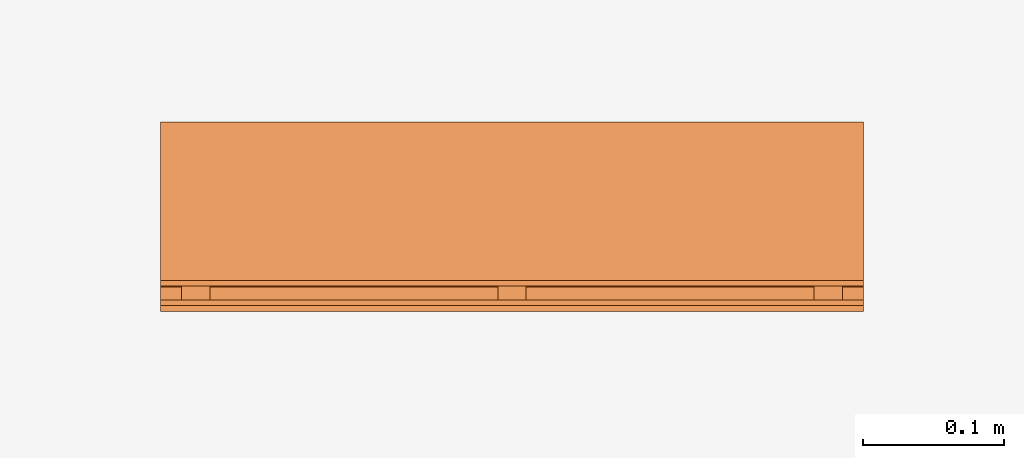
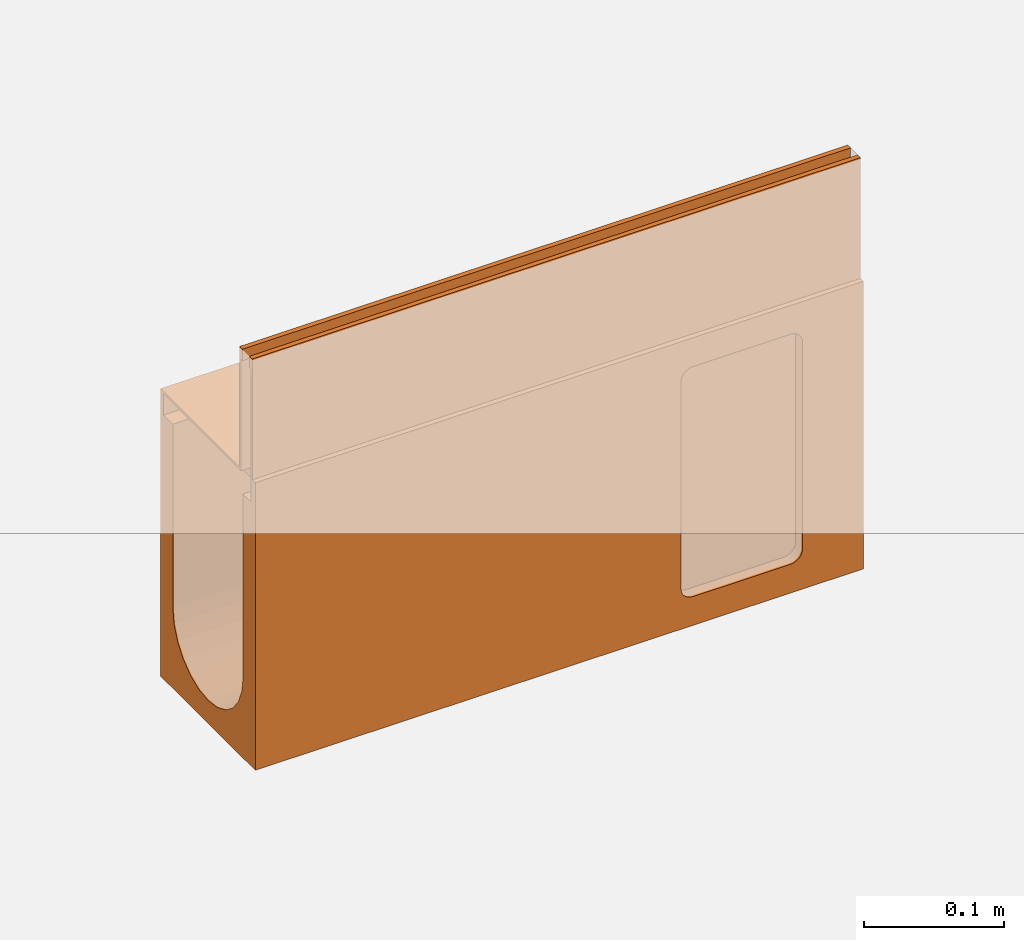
# One storey, part 2 of 2: 1 proxy.
"""IFC2X3 building model written with IfcOpenShell, lengths in millimetres."""

from ifc_helpers import new_model, entity, si_unit, converted_unit, direction, frame, origin, place, context, subcontext, project, spatial, faceted_brep, source, transform, mapped, material, material_list, element, save


model = new_model("IFC2X3")

# Units and contexts
model_context = context("Model", 3, precision=1e-06, world=origin(), true_north=direction((2.0, 6.12303176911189e-17, 1.0)))
context_of_model = context(None, 3, precision=1e-06, world=origin(), true_north=direction((2.0, 6.12303176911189e-17, 1.0)))
body_context = subcontext(model_context, "Body", "Model", "MODEL_VIEW")
ifc_project = project(units=[si_unit("LENGTHUNIT", "METRE", prefix="MILLI"), si_unit("AREAUNIT", "SQUARE_METRE", prefix="MILLI"), si_unit("VOLUMEUNIT", "CUBIC_METRE", prefix="MILLI"), converted_unit("PLANEANGLEUNIT", "DEGREE", entity("IfcRatioMeasure", 0.0174532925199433), si_unit("PLANEANGLEUNIT", "RADIAN"), dimensions=[0, 0, 0, 0, 0, 0, 0]), si_unit("TIMEUNIT", "SECOND")], contexts=[model_context, context_of_model])

# Site, building, storey
site_placement = place(None, origin())
site = spatial("IfcSite", under=ifc_project, at=site_placement, Name="Default", CompositionType="ELEMENT")
building_placement = place(site_placement, origin())
building = spatial("IfcBuilding", under=site, at=building_placement, CompositionType="ELEMENT")
storey_placement = place(building_placement, origin())
storey = spatial("IfcBuildingStorey", under=building, at=storey_placement, Name="Level 1", CompositionType="ELEMENT", Elevation=0.0)

# Proxy
ifc_material_1 = material(Name="Steel, Galvanized")
ifc_material_2 = material(Name="Vienite® Synthetic Resin Concrete")
ifc_material_list = material_list([ifc_material_1, ifc_material_2])
shared_shape = source(origin(), body_context, "Body", "Brep", [
    faceted_brep([(63.2499999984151, 240.0, -107.000975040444), (63.2499999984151, 242.0, -109.000975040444), (63.2499999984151, 258.0, -109.000975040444), (63.2499999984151, 260.0, -107.000975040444), (63.2499999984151, 242.0, -123.500975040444), (63.2499999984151, 240.0, -125.500975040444), (63.2499999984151, 258.0, -123.500975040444), (63.2499999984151, 260.0, -125.500975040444), (-61.2500000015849, 240.0, -125.500975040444), (-61.2500000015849, 242.0, -123.500975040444), (-61.2500000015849, 258.0, -123.500975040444), (-61.2500000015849, 260.0, -125.500975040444), (-61.2500000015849, 242.0, -109.000975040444), (-61.2500000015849, 240.0, -107.000975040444), (-61.2500000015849, 258.0, -109.000975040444), (-61.2500000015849, 260.0, -107.000975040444)], [[[0, 1, 2, 3]], [[4, 1, 0, 5]], [[3, 2, 6, 7]], [[6, 4, 5, 7]], [[8, 9, 10, 11]], [[12, 9, 8, 13]], [[11, 10, 14, 15]], [[14, 12, 13, 15]], [[5, 0, 13, 8]], [[7, 5, 8, 11]], [[3, 7, 11, 15]], [[0, 3, 15, 13]], [[1, 4, 9, 12]], [[2, 1, 12, 14]], [[6, 2, 14, 10]], [[4, 6, 10, 9]]]),
    faceted_brep([(63.2499999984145, 15.0, -107.000975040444), (63.2499999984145, 17.0, -109.000975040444), (63.2499999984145, 33.0, -109.000975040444), (63.2499999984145, 35.0, -107.000975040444), (63.2499999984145, 17.0, -123.500975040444), (63.2499999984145, 15.0, -125.500975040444), (63.2499999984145, 33.0, -123.500975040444), (63.2499999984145, 35.0, -125.500975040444), (-61.2500000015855, 15.0, -125.500975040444), (-61.2500000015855, 17.0, -123.500975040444), (-61.2500000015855, 33.0, -123.500975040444), (-61.2500000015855, 35.0, -125.500975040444), (-61.2500000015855, 17.0, -109.000975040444), (-61.2500000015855, 15.0, -107.000975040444), (-61.2500000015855, 33.0, -109.000975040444), (-61.2500000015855, 35.0, -107.000975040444)], [[[0, 1, 2, 3]], [[4, 1, 0, 5]], [[3, 2, 6, 7]], [[6, 4, 5, 7]], [[8, 9, 10, 11]], [[12, 9, 8, 13]], [[11, 10, 14, 15]], [[14, 12, 13, 15]], [[5, 0, 13, 8]], [[11, 7, 5, 8]], [[3, 7, 11, 15]], [[0, 3, 15, 13]], [[1, 4, 9, 12]], [[14, 2, 1, 12]], [[6, 2, 14, 10]], [[9, 4, 6, 10]]]),
    faceted_brep([(63.2499999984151, 465.0, -107.000975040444), (63.2499999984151, 467.0, -109.000975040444), (63.2499999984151, 483.0, -109.000975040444), (63.2499999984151, 485.0, -107.000975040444), (63.2499999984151, 467.0, -123.500975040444), (63.2499999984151, 465.0, -125.500975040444), (63.2499999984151, 483.0, -123.500975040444), (63.2499999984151, 485.0, -125.500975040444), (-61.2500000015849, 465.0, -125.500975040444), (-61.2500000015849, 467.0, -123.500975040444), (-61.2500000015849, 483.0, -123.500975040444), (-61.2500000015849, 485.0, -125.500975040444), (-61.2500000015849, 467.0, -109.000975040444), (-61.2500000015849, 465.0, -107.000975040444), (-61.2500000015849, 483.0, -109.000975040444), (-61.2500000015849, 485.0, -107.000975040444)], [[[0, 1, 2, 3]], [[4, 1, 0, 5]], [[3, 2, 6, 7]], [[6, 4, 5, 7]], [[8, 9, 10, 11]], [[12, 9, 8, 13]], [[11, 10, 14, 15]], [[14, 12, 13, 15]], [[5, 0, 13, 8]], [[7, 5, 8, 11]], [[3, 7, 11, 15]], [[0, 3, 15, 13]], [[1, 4, 9, 12]], [[2, 1, 12, 14]], [[6, 2, 14, 10]], [[4, 6, 10, 9]]]),
    faceted_brep([(-47.2500000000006, 0.0, -10.0), (-47.2500000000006, 0.0, -107.0), (-45.2500000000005, 0.0, -105.0), (-45.2500000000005, 0.0, 0.0), (-49.2500000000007, 0.0, 0.0), (-49.2500000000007, 0.0, -10.0), (63.2499999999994, 0.0, -107.0), (63.2499999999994, 0.0, -105.0), (-45.2500000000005, 500.0, -105.0), (63.2499999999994, 500.0, -105.0), (63.2499999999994, 500.0, -107.0), (-47.2500000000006, 500.0, -107.0), (-47.2500000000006, 500.0, -10.0), (-45.2500000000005, 500.0, 0.0), (-49.2500000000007, 500.0, -10.0), (-49.2500000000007, 500.0, 0.0)], [[[0, 1, 2, 3]], [[4, 5, 0, 3]], [[6, 7, 2, 1]], [[8, 9, 10, 11]], [[12, 13, 8, 11]], [[12, 14, 15, 13]], [[12, 0, 5, 14]], [[1, 0, 12, 11]], [[10, 6, 1, 11]], [[9, 7, 6, 10]], [[2, 7, 9, 8]], [[3, 2, 8, 13]], [[4, 3, 13, 15]], [[5, 4, 15, 14]]]),
    faceted_brep([(-59.2500000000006, 500.0, 0.0), (-59.2500000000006, 500.0, -10.0), (-61.2500000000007, 500.0, -10.0), (-63.2500000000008, 500.0, 0.0), (-63.2500000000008, 500.0, -125.499999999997), (-61.2500000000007, 500.0, -125.499999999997), (-61.2500000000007, 0.0, -10.0), (-63.2500000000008, 0.0, 0.0), (-63.2500000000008, 0.0, -125.499999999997), (-61.2500000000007, 0.0, -125.499999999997), (-59.2500000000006, 0.0, 0.0), (-59.2500000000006, 0.0, -10.0)], [[[0, 1, 2, 3]], [[4, 3, 2, 5]], [[6, 7, 8, 9]], [[10, 7, 6, 11]], [[5, 9, 8, 4]], [[6, 9, 5, 2]], [[1, 11, 6, 2]], [[10, 11, 1, 0]], [[7, 10, 0, 3]], [[4, 8, 7, 3]]]),
    faceted_brep([(63.2499999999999, 500.0, -125.500000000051), (63.2499999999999, 500.0, -105.0), (67.4999999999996, 500.0, -105.0), (67.5, 500.0, -355.0), (50.0, 500.0, -285.0), (50.0, 500.0, -125.500000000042), (-67.5000000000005, 500.0, -105.0), (-63.2500000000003, 500.0, -105.0), (-63.2500000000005, 500.0, -125.500000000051), (-67.5000000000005, 500.0, -355.0), (-50.0, 500.0, -125.500000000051), (-50.0, 500.0, -285.0), (48.2962913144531, 500.0, -297.940952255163), (35.3553390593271, 500.0, -320.355339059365), (43.3012701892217, 500.0, -310.0), (25.0, 500.0, -328.301270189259), (0.0, 500.0, -335.0), (12.9409522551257, 500.0, -333.296291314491), (-43.3012701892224, 500.0, -310.0), (-35.3553390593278, 500.0, -320.355339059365), (-48.2962913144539, 500.0, -297.940952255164), (-25.0, 500.0, -328.301270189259), (-12.9409522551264, 500.0, -333.296291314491), (67.5, 0.0, -355.0), (12.9409522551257, 0.0, -333.296291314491), (0.0, 0.0, -335.0), (25.0, 0.0, -328.301270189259), (35.3553390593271, 0.0, -320.355339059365), (43.3012701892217, 0.0, -310.0), (48.2962913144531, 0.0, -297.940952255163), (-12.9409522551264, 0.0, -333.296291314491), (-67.5000000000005, 0.0, -355.0), (-25.0, 0.0, -328.301270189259), (-35.3553390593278, 0.0, -320.355339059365), (-43.3012701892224, 0.0, -310.0), (-48.2962913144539, 0.0, -297.940952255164), (50.0, 0.0, -285.0), (63.2499999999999, 0.0, -125.500000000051), (50.0, 0.0, -125.500000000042), (67.4999999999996, 0.0, -105.0), (63.2499999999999, 0.0, -105.0), (-50.0, 0.0, -285.0), (-50.0, 0.0, -125.500000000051), (-63.2500000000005, 0.0, -125.500000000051), (-63.2500000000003, 0.0, -105.0), (-67.5000000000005, 0.0, -105.0), (-67.5000000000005, 51.3397459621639, -135.0), (-67.5000000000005, 50.3407417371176, -137.411809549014), (-67.5000000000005, 52.9289321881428, -132.928932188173), (-67.5000000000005, 50.0, -140.0), (-67.5000000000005, 50.0, -320.0), (-67.5000000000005, 60.0, -130.0), (-67.5000000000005, 57.4118095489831, -130.340741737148), (-67.5000000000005, 55.0, -131.339745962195), (-67.5000000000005, 140.0, -130.0), (-67.5000000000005, 50.3407417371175, -322.58819045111), (-67.5000000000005, 51.3397459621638, -325.0), (-67.5000000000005, 52.9289321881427, -327.07106781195), (-67.5000000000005, 55.0, -328.660254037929), (-67.5000000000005, 57.4118095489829, -329.659258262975), (-67.5000000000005, 60.0, -330.0), (-67.5000000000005, 140.0, -330.0), (-67.5000000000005, 142.588190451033, -130.340741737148), (-67.5000000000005, 147.071067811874, -132.928932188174), (-67.5000000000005, 145.0, -131.339745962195), (-67.5000000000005, 148.660254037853, -135.0), (-67.5000000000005, 149.659258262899, -137.411809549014), (-67.5000000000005, 150.0, -140.0), (-67.5000000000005, 145.0, -328.660254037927), (-67.5000000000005, 147.071067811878, -327.071067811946), (-67.5000000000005, 142.588190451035, -329.659258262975), (-67.5000000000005, 149.659258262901, -322.5881904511), (-67.5000000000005, 150.0, -320.0), (-67.5000000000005, 148.660254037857, -325.0), (-14.2350474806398, 46.8740795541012, -355.0), (0.0, 45.0, -355.0), (-27.5000000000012, 52.3686027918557, -355.0), (-53.1259204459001, 85.764952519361, -355.0), (-47.6313972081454, 72.4999999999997, -355.0), (-38.8908729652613, 61.1091270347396, -355.0), (-55.0, 100.0, -355.0), (14.2350474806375, 46.8740795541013, -355.0), (27.4999999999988, 52.368602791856, -355.0), (38.8908729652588, 61.1091270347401, -355.0), (47.6313972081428, 72.5000000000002, -355.0), (53.1259204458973, 85.7649525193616, -355.0), (55.0, 100.0, -355.0), (-53.1259204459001, 114.235047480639, -355.0), (-47.6313972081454, 127.5, -355.0), (-38.8908729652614, 138.89087296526, -355.0), (-27.5000000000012, 147.631397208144, -355.0), (-14.2350474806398, 153.125920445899, -355.0), (0.0, 155.0, -355.0), (47.6313972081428, 127.5, -355.0), (38.8908729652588, 138.89087296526, -355.0), (53.1259204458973, 114.235047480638, -355.0), (14.2350474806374, 153.125920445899, -355.0), (27.4999999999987, 147.631397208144, -355.0), (67.4999999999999, 51.3397459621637, -325.0), (67.4999999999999, 50.3407417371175, -322.588190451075), (67.4999999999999, 52.9289321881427, -327.071067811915), (67.4999999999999, 50.0, -320.0), (67.4999999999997, 50.0, -140.0), (67.5, 60.0, -330.0), (67.4999999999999, 57.4118095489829, -329.659258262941), (67.4999999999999, 55.0, -328.660254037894), (67.5, 140.0, -330.0), (67.4999999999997, 50.3407417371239, -137.411809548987), (67.4999999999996, 51.3397459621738, -135.0), (67.4999999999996, 52.9289321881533, -132.92893218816), (67.4999999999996, 55.0, -131.339745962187), (67.4999999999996, 57.4118095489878, -130.340741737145), (67.4999999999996, 60.0, -130.0), (67.4999999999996, 140.0, -130.0), (67.4999999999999, 142.588190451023, -329.65925826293), (67.4999999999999, 147.071067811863, -327.071067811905), (67.4999999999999, 145.0, -328.660254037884), (67.4999999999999, 148.660254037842, -325.0), (67.4999999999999, 149.659258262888, -322.588190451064), (67.4999999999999, 150.0, -320.0), (67.4999999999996, 145.0, -131.339745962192), (67.4999999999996, 147.071067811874, -132.928932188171), (67.4999999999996, 142.588190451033, -130.340741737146), (67.4999999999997, 149.659258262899, -137.411809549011), (67.4999999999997, 150.0, -140.0), (67.4999999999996, 148.660254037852, -135.0), (57.4999999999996, 140.0, -330.0), (57.4999999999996, 149.659258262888, -322.588190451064), (57.4999999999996, 150.0, -320.0), (57.4999999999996, 50.0, -320.0), (57.4999999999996, 147.071067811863, -327.071067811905), (57.4999999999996, 148.660254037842, -325.0), (57.4999999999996, 142.588190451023, -329.65925826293), (57.4999999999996, 145.0, -328.660254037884), (57.4999999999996, 150.0, -140.0), (57.4999999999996, 50.0, -140.0), (57.4999999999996, 148.660254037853, -135.0), (57.4999999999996, 147.071067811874, -132.928932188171), (57.4999999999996, 149.659258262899, -137.411809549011), (57.4999999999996, 140.0, -130.0), (57.4999999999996, 145.0, -131.339745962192), (57.4999999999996, 142.588190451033, -130.340741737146), (57.4999999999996, 60.0, -130.0), (57.4999999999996, 55.0, -328.660254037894), (57.4999999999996, 57.4118095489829, -329.659258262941), (57.4999999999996, 60.0, -330.0), (57.4999999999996, 52.9289321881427, -327.071067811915), (57.4999999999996, 50.3407417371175, -322.588190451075), (57.4999999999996, 51.3397459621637, -325.0), (57.4999999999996, 57.411809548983, -130.340741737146), (57.4999999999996, 55.0, -131.339745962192), (57.4999999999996, 51.3397459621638, -135.0), (57.4999999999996, 50.3407417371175, -137.411809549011), (57.4999999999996, 52.9289321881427, -132.928932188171), (-57.5000000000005, 57.4118095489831, -130.340741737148), (-57.5000000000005, 60.0, -130.0), (-57.5000000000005, 52.9289321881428, -132.928932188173), (-57.5000000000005, 55.0, -131.339745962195), (-57.5000000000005, 50.0, -140.0), (-57.5000000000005, 50.3407417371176, -137.411809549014), (-57.5000000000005, 51.3397459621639, -135.0), (-57.5000000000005, 150.0, -140.0), (-57.5000000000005, 140.0, -130.0), (-57.5000000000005, 142.588190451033, -130.340741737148), (-57.5000000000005, 145.0, -131.339745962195), (-57.5000000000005, 149.659258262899, -137.411809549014), (-57.5000000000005, 147.071067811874, -132.928932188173), (-57.5000000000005, 148.660254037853, -135.0), (-57.5000000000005, 150.0, -320.0), (-57.5000000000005, 50.0, -320.0), (-57.5000000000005, 50.3407417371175, -322.58819045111), (-57.5000000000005, 57.4118095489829, -329.659258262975), (-57.5000000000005, 55.0, -328.660254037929), (-57.5000000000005, 52.9289321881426, -327.07106781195), (-57.5000000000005, 51.3397459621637, -325.0), (-57.5000000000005, 60.0, -330.0), (-57.5000000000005, 140.0, -330.0), (-57.5000000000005, 149.659258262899, -322.58819045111), (-57.5000000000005, 148.660254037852, -325.0), (-57.5000000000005, 145.0, -328.660254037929), (-57.5000000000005, 142.588190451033, -329.659258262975), (-57.5000000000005, 147.071067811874, -327.07106781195), (-27.5000000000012, 147.631397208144, -345.0), (-14.2350474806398, 153.125920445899, -345.0), (0.0, 155.0, -345.0), (14.2350474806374, 153.125920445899, -345.0), (-38.8908729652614, 138.89087296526, -345.0), (-47.6313972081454, 127.5, -345.0), (-55.0, 100.0, -345.0), (-53.1259204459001, 114.235047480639, -345.0), (47.6313972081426, 72.4999999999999, -345.0), (27.4999999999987, 147.631397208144, -345.0), (53.1259204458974, 114.235047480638, -345.0), (55.0, 100.0, -345.0), (47.6313972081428, 127.5, -345.0), (38.8908729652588, 138.89087296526, -345.0), (-47.6313972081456, 72.5, -345.0), (-27.5000000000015, 52.3686027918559, -345.0), (-38.8908729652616, 61.1091270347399, -345.0), (0.0, 45.0, -345.0), (-14.2350474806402, 46.8740795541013, -345.0), (38.8908729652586, 61.1091270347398, -345.0), (53.1259204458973, 85.7649525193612, -345.0), (27.4999999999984, 52.3686027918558, -345.0), (14.2350474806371, 46.8740795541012, -345.0), (-53.1259204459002, 85.7649525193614, -345.0)], [[[0, 1, 2, 3]], [[4, 5, 0, 3]], [[6, 7, 8, 9]], [[8, 10, 11, 9]], [[4, 3, 12]], [[13, 14, 3]], [[15, 13, 3]], [[16, 17, 3, 9]], [[3, 17, 15]], [[14, 12, 3]], [[18, 19, 9]], [[20, 18, 9]], [[21, 22, 9]], [[9, 22, 16]], [[21, 9, 19]], [[20, 9, 11]], [[23, 24, 25]], [[24, 23, 26]], [[27, 26, 23]], [[28, 27, 23]], [[23, 29, 28]], [[25, 30, 31, 23]], [[31, 30, 32]], [[33, 34, 31]], [[32, 33, 31]], [[31, 34, 35]], [[36, 29, 23]], [[37, 38, 36, 23]], [[39, 40, 37, 23]], [[41, 42, 43, 31]], [[35, 41, 31]], [[43, 44, 45, 31]], [[7, 44, 43, 8]], [[45, 44, 7, 6]], [[45, 46, 47]], [[46, 45, 48]], [[47, 49, 45]], [[45, 49, 50]], [[51, 52, 45]], [[53, 48, 45]], [[52, 53, 45]], [[54, 51, 45, 6]], [[50, 55, 31, 45]], [[31, 56, 57]], [[56, 31, 55]], [[57, 58, 31]], [[59, 60, 31]], [[58, 59, 31]], [[31, 60, 61]], [[62, 54, 6]], [[63, 64, 6]], [[62, 6, 64]], [[65, 6, 66]], [[6, 65, 63]], [[67, 66, 6, 9]], [[68, 69, 9]], [[61, 70, 9, 31]], [[68, 9, 70]], [[71, 72, 9]], [[73, 9, 69]], [[9, 73, 71]], [[72, 67, 9]], [[31, 74, 75, 23]], [[74, 31, 76]], [[77, 78, 31]], [[79, 76, 31]], [[78, 79, 31]], [[31, 80, 77]], [[23, 81, 82]], [[81, 23, 75]], [[23, 82, 83]], [[83, 84, 23]], [[85, 86, 23]], [[84, 85, 23]], [[23, 86, 3]], [[9, 87, 80, 31]], [[88, 87, 9]], [[89, 9, 90]], [[9, 89, 88]], [[91, 90, 9]], [[92, 91, 9, 3]], [[93, 94, 3]], [[95, 93, 3]], [[96, 92, 3]], [[97, 3, 94]], [[3, 97, 96]], [[95, 3, 86]], [[23, 98, 99]], [[98, 23, 100]], [[99, 101, 23]], [[23, 101, 102]], [[103, 104, 23]], [[105, 100, 23]], [[104, 105, 23]], [[106, 103, 23, 3]], [[102, 107, 39, 23]], [[39, 108, 109]], [[108, 39, 107]], [[109, 110, 39]], [[111, 112, 39]], [[110, 111, 39]], [[39, 112, 113]], [[114, 106, 3]], [[115, 116, 3]], [[114, 3, 116]], [[117, 3, 118]], [[3, 117, 115]], [[119, 118, 3, 2]], [[120, 121, 2]], [[113, 122, 2, 39]], [[120, 2, 122]], [[123, 124, 2]], [[125, 2, 121]], [[2, 125, 123]], [[124, 119, 2]], [[40, 39, 2, 1]], [[0, 37, 40, 1]], [[5, 38, 37, 0]], [[4, 36, 38, 5]], [[14, 28, 29, 12]], [[12, 29, 36, 4]], [[15, 26, 27, 13]], [[13, 27, 28, 14]], [[17, 24, 26, 15]], [[24, 17, 16, 25]], [[21, 32, 30, 22]], [[19, 33, 32, 21]], [[20, 35, 34, 18]], [[18, 34, 33, 19]], [[11, 41, 35, 20]], [[22, 30, 25, 16]], [[42, 41, 11, 10]], [[43, 42, 10, 8]], [[126, 127, 128, 129]], [[130, 131, 127, 126]], [[130, 126, 132, 133]], [[129, 128, 134, 135]], [[136, 137, 138]], [[139, 134, 138, 137]], [[139, 137, 140, 141]], [[134, 139, 142, 135]], [[143, 144, 145, 146]], [[147, 148, 146, 129]], [[129, 146, 145, 126]], [[142, 149, 150, 135]], [[151, 152, 135, 153]], [[150, 153, 135]], [[152, 107, 102, 135]], [[151, 108, 107, 152]], [[108, 151, 153, 109]], [[150, 110, 109, 153]], [[149, 111, 110, 150]], [[111, 149, 142, 112]], [[112, 142, 139, 113]], [[141, 122, 113, 139]], [[140, 120, 122, 141]], [[120, 140, 137, 121]], [[136, 125, 121, 137]], [[138, 123, 125, 136]], [[123, 138, 134, 124]], [[124, 134, 128, 119]], [[127, 118, 119, 128]], [[131, 117, 118, 127]], [[117, 131, 130, 115]], [[133, 116, 115, 130]], [[132, 114, 116, 133]], [[114, 132, 126, 106]], [[106, 126, 145, 103]], [[144, 104, 103, 145]], [[143, 105, 104, 144]], [[105, 143, 146, 100]], [[148, 98, 100, 146]], [[147, 99, 98, 148]], [[99, 147, 129, 101]], [[101, 129, 135, 102]], [[154, 155, 156, 157]], [[156, 158, 159, 160]], [[158, 156, 155, 161]], [[162, 163, 164, 165]], [[164, 166, 167, 165]], [[162, 165, 161, 155]], [[158, 161, 168, 169]], [[170, 169, 171, 172]], [[173, 174, 170, 172]], [[175, 171, 169, 176]], [[177, 178, 176, 168]], [[179, 180, 176, 178]], [[179, 178, 181]], [[176, 169, 168]], [[154, 52, 51, 155]], [[157, 53, 52, 154]], [[53, 157, 156, 48]], [[160, 46, 48, 156]], [[159, 47, 46, 160]], [[47, 159, 158, 49]], [[162, 155, 51, 54]], [[165, 66, 67, 161]], [[167, 65, 66, 165]], [[65, 167, 166, 63]], [[164, 64, 63, 166]], [[163, 62, 64, 164]], [[62, 163, 162, 54]], [[72, 168, 161, 67]], [[180, 70, 61, 176]], [[179, 68, 70, 180]], [[68, 179, 181, 69]], [[178, 73, 69, 181]], [[177, 71, 73, 178]], [[71, 177, 168, 72]], [[60, 175, 176, 61]], [[170, 55, 50, 169]], [[174, 56, 55, 170]], [[56, 174, 173, 57]], [[172, 58, 57, 173]], [[171, 59, 58, 172]], [[59, 171, 175, 60]], [[158, 169, 50, 49]], [[182, 183, 184, 185]], [[186, 182, 185, 187]], [[188, 189, 187, 190]], [[190, 187, 185, 191]], [[192, 193, 191, 194]], [[195, 194, 191]], [[196, 188, 190, 197]], [[198, 196, 197]], [[199, 200, 197, 201]], [[193, 202, 190, 191]], [[199, 201, 203, 204]], [[197, 190, 201]], [[205, 188, 196]], [[192, 95, 86, 193]], [[194, 93, 95, 192]], [[191, 97, 94, 195]], [[195, 94, 93, 194]], [[185, 96, 97, 191]], [[96, 185, 184, 92]], [[183, 91, 92, 184]], [[182, 90, 91, 183]], [[187, 88, 89, 186]], [[186, 89, 90, 182]], [[189, 87, 88, 187]], [[87, 189, 188, 80]], [[205, 77, 80, 188]], [[196, 78, 77, 205]], [[197, 76, 79, 198]], [[198, 79, 78, 196]], [[200, 74, 76, 197]], [[74, 200, 199, 75]], [[204, 81, 75, 199]], [[203, 82, 81, 204]], [[190, 84, 83, 201]], [[201, 83, 82, 203]], [[202, 85, 84, 190]], [[85, 202, 193, 86]]]),
])
proxy_placement = place(storey_placement, frame((143.656586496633, 99.9218925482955, 0.0), z_axis=(0.0, 0.0, 1.0), x_axis=(0.0, 1.0, 0.0)))
element("IfcBuildingElementProxy", 1, at=proxy_placement, inside=storey, material=ifc_material_list, Name="Civil-Drainage-Channel-ACO-MultiDrain-M100D-Brickslot-Channel-System:23201 - No 20.1J Constant Depth Channel - 500mm LG - Invert Depth 230mm:23201 - No 20.1J Constant Depth Channel - 500mm LG - Invert Depth 230mm", ObjectType="23201 - No 20.1J Constant Depth Channel - 500mm LG - Invert Depth 230mm", CompositionType="ELEMENT", context=body_context, shape_type="MappedRepresentation", body=[
    mapped(shared_shape, transform((0.0, 0.0, 0.0), scale=1.0)),
])

save(model, "model.ifc")
